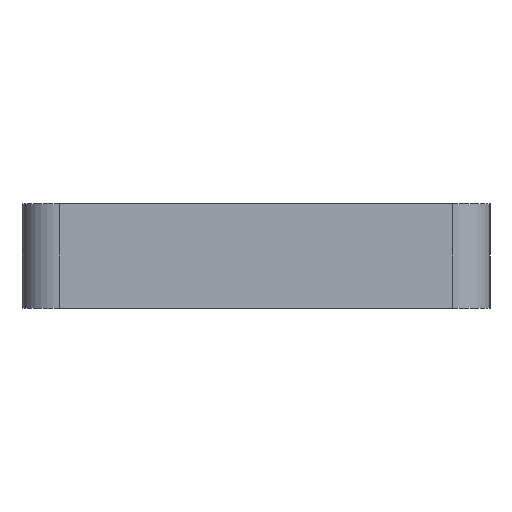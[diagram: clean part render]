
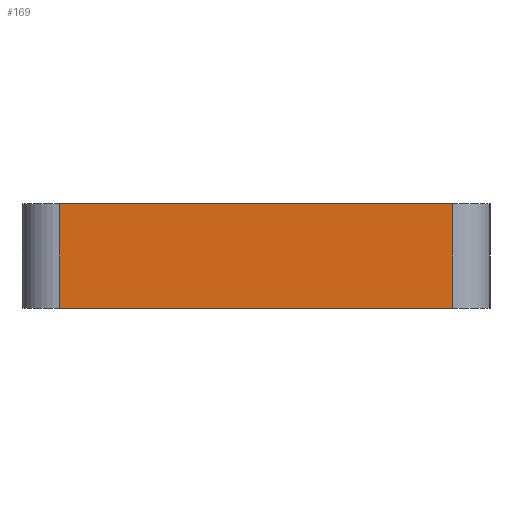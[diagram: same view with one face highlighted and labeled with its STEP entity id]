
A CAD part, left-side view. The second image highlights one B-rep face of the part: STEP entity #169.
In plain terms, the highlighted planar face has unit normal (-1, 0, 0).
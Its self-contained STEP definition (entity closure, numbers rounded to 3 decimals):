
#5 = PLANE ( 'NONE',  #450 ) ;
#9 = CARTESIAN_POINT ( 'NONE',  ( 0., 2., -50.4 ) ) ;
#18 = VERTEX_POINT ( 'NONE', #228 ) ;
#23 = CARTESIAN_POINT ( 'NONE',  ( 0., 23., -50.4 ) ) ;
#26 = LINE ( 'NONE', #248, #539 ) ;
#29 = ORIENTED_EDGE ( 'NONE', *, *, #417, .F. ) ;
#75 = VECTOR ( 'NONE', #444, 1000. ) ;
#93 = VERTEX_POINT ( 'NONE', #9 ) ;
#95 = ORIENTED_EDGE ( 'NONE', *, *, #373, .T. ) ;
#96 = DIRECTION ( 'NONE',  ( 0., -1., 0. ) ) ;
#98 = LINE ( 'NONE', #342, #75 ) ;
#101 = EDGE_CURVE ( 'NONE', #601, #93, #26, .T. ) ;
#155 = ORIENTED_EDGE ( 'NONE', *, *, #296, .T. ) ;
#169 = ADVANCED_FACE ( 'NONE', ( #492 ), #5, .T. ) ;
#193 = CARTESIAN_POINT ( 'NONE',  ( 0., 2., -44.8 ) ) ;
#203 = ORIENTED_EDGE ( 'NONE', *, *, #101, .F. ) ;
#228 = CARTESIAN_POINT ( 'NONE',  ( 0., 23., -44.8 ) ) ;
#238 = VERTEX_POINT ( 'NONE', #23 ) ;
#246 = DIRECTION ( 'NONE',  ( 0., 0., -1. ) ) ;
#248 = CARTESIAN_POINT ( 'NONE',  ( 0., 2., -44.8 ) ) ;
#296 = EDGE_CURVE ( 'NONE', #601, #18, #571, .T. ) ;
#342 = CARTESIAN_POINT ( 'NONE',  ( 0., 2., -50.4 ) ) ;
#354 = CARTESIAN_POINT ( 'NONE',  ( 0., 2., -44.8 ) ) ;
#359 = VECTOR ( 'NONE', #398, 1000. ) ;
#373 = EDGE_CURVE ( 'NONE', #18, #238, #610, .T. ) ;
#381 = CARTESIAN_POINT ( 'NONE',  ( 0., 2., -44.8 ) ) ;
#398 = DIRECTION ( 'NONE',  ( 0., 0., -1. ) ) ;
#417 = EDGE_CURVE ( 'NONE', #93, #238, #98, .T. ) ;
#434 = DIRECTION ( 'NONE',  ( 0., 1., 0. ) ) ;
#444 = DIRECTION ( 'NONE',  ( 0., 1., 0. ) ) ;
#450 = AXIS2_PLACEMENT_3D ( 'NONE', #354, #638, #96 ) ;
#492 = FACE_OUTER_BOUND ( 'NONE', #618, .T. ) ;
#509 = VECTOR ( 'NONE', #434, 1000. ) ;
#539 = VECTOR ( 'NONE', #246, 1000. ) ;
#571 = LINE ( 'NONE', #381, #509 ) ;
#601 = VERTEX_POINT ( 'NONE', #193 ) ;
#610 = LINE ( 'NONE', #627, #359 ) ;
#618 = EDGE_LOOP ( 'NONE', ( #29, #203, #155, #95 ) ) ;
#627 = CARTESIAN_POINT ( 'NONE',  ( 0., 23., -44.8 ) ) ;
#638 = DIRECTION ( 'NONE',  ( -1., 0., 0. ) ) ;
